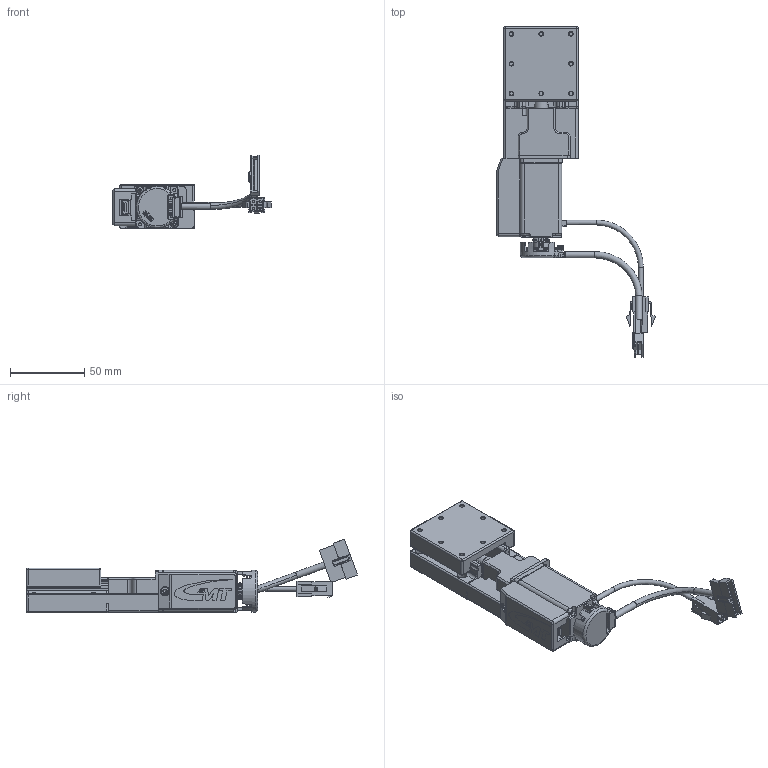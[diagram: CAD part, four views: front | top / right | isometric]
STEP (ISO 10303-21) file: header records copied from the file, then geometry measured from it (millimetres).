
FILE_DESCRIPTION(/* description */ (''),/* implementation_level */ '2;1');
FILE_NAME(/* name */ 'CXS5020-Ezi-Servo-PR-28M',/* time_stamp */ '2023-02-09T21:01:51+01:00',/* author */ (''),/* organization */ ('GMT Europe'),/* preprocessor_version */ 'ST-DEVELOPER v16.7',/* originating_system */ 'Solid Edge',/* authorisation */ 'Unknown');
FILE_SCHEMA (('AUTOMOTIVE_DESIGN {1 0 10303 214 3 1 1}'));
Products named in the file (24): CXS5020-Ezi-Servo-PR-28M; CXS5020; Group1^CXS5020-S 模糊化; Group2^CXS5020-S 模糊化; Motorflansch-ix-001; ISO 4762_M2,5x5_8.8; ISO 4762_M3x10_8.8; Ezi-SERVO-Plus-R; 馨檜蝶; SW3dPS-R28i_R28i_Hub; SW3dPS-R28i_R28i_Disk; SW3dPS-R28i_R28i_PCB; SW3dPS-R28i_Connector; SW3dPS-R28i_R28i_BaseStandoff; SW3dPS-R28i_R28i_LeadFrame; SW3dPS-R28i_R28i_Cover; encoder_cable_28; 馨檜綰; Power_Cable_20; M11-MO-028-03-R01; Gehäuse-ix-001; Platine-ix-001; PCB ix Industrial-001; 09452819001
Assembly tree (23 placements, depth 4):
  CXS5020-Ezi-Servo-PR-28M
    CXS5020
      Group1^CXS5020-S 模糊化
      Group2^CXS5020-S 模糊化
    Motorflansch-ix-001
    ISO 4762_M2,5x5_8.8
    ISO 4762_M3x10_8.8
    Ezi-SERVO-Plus-R
      馨檜蝶
        SW3dPS-R28i_R28i_Hub
        SW3dPS-R28i_R28i_Disk
        SW3dPS-R28i_R28i_PCB
        SW3dPS-R28i_Connector
        SW3dPS-R28i_R28i_BaseStandoff
        SW3dPS-R28i_R28i_LeadFrame
        SW3dPS-R28i_R28i_Cover
        encoder_cable_28
      馨檜綰
        Power_Cable_20
      M11-MO-028-03-R01
    Gehäuse-ix-001
    Platine-ix-001
      PCB ix Industrial-001
      09452819001
Bounding box: 106.21 x 222.19 x 49.45 mm (x, y, z)
Volume: 138116.8 mm3; surface area: 65706.7 mm2
Topology: 17 solids, 17 shells, 3851 faces, 10518 edges, 6908 vertices
Faces by surface type: plane 2791, cylinder 800, bspline 126, cone 79, torus 38, sphere 17
Full cylindrical faces by diameter (mm): 0.9 x54, 1 x15, 1.4 x54, 1.45 x2, 1.5 x4, 1.57 x1, 1.6 x1, 2.013 x2, 2.05 x4, 2.1 x2, 2.459 x1, 2.5 x9, 2.8 x4, 3 x2, 3.172 x1, 3.2 x1, 3.3 x2, 3.4 x4, 3.5 x1, 3.8 x1, 4.3 x2, 4.68 x1, 5 x3, 5.5 x2, 6 x3, 6.2 x1, 6.5 x4, 8 x2, 8.5 x1, 8.69 x1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
Entity records: 133675 total; most frequent: CARTESIAN_POINT 26554, ORIENTED_EDGE 20346, DIRECTION 19093, EDGE_CURVE 10173, LINE 8053, VECTOR 8053, VERTEX_POINT 6840, AXIS2_PLACEMENT_3D 5520
